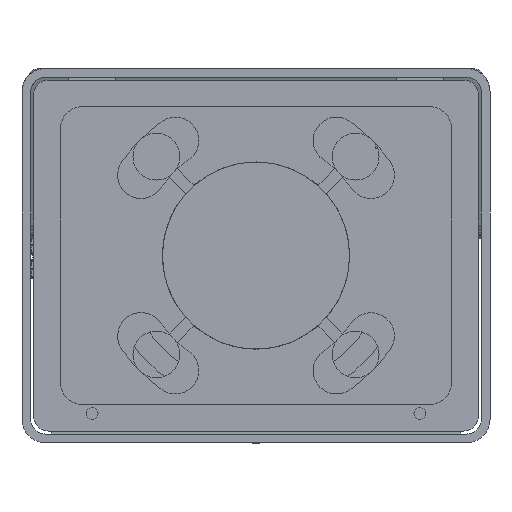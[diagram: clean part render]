
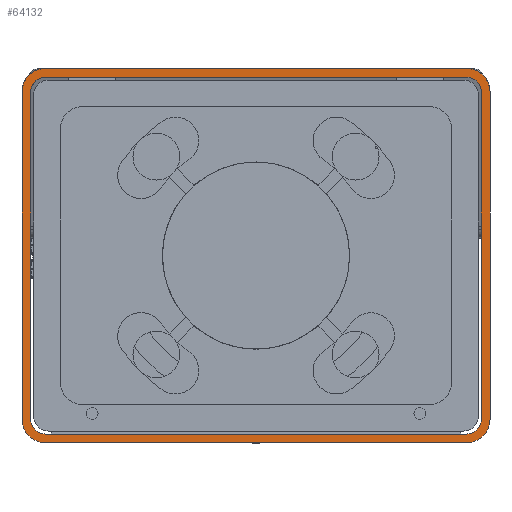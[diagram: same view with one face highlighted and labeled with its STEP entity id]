
A CAD part, front view. The second image highlights one B-rep face of the part: STEP entity #64132.
In plain terms, the highlighted planar face has unit normal (0, -1, 0).
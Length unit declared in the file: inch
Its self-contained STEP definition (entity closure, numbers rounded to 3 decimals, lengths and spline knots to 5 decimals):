
#435 = DIRECTION ( 'NONE',  ( 0., 0., -1. ) ) ;
#550 = ORIENTED_EDGE ( 'NONE', *, *, #69331, .F. ) ;
#738 = VERTEX_POINT ( 'NONE', #33235 ) ;
#1366 = LINE ( 'NONE', #42932, #30515 ) ;
#2058 = EDGE_CURVE ( 'NONE', #53831, #58784, #33843, .T. ) ;
#4867 = ORIENTED_EDGE ( 'NONE', *, *, #86694, .T. ) ;
#5449 = DIRECTION ( 'NONE',  ( 0., 0., 1. ) ) ;
#5899 = CARTESIAN_POINT ( 'NONE',  ( 4.5, 0., -4. ) ) ;
#9724 = EDGE_LOOP ( 'NONE', ( #40112, #85325, #550, #25454, #68902, #80272, #71871, #14323 ) ) ;
#10003 = VERTEX_POINT ( 'NONE', #73698 ) ;
#11094 = DIRECTION ( 'NONE',  ( 0., 1., 0. ) ) ;
#11738 = CARTESIAN_POINT ( 'NONE',  ( -4.5, 0., -3.5 ) ) ;
#13358 = CARTESIAN_POINT ( 'NONE',  ( -4.5, 0., -3.8125 ) ) ;
#13961 = VECTOR ( 'NONE', #46220, 39.37008 ) ;
#14251 = CARTESIAN_POINT ( 'NONE',  ( -4.8125, 0., -3.5 ) ) ;
#14323 = ORIENTED_EDGE ( 'NONE', *, *, #2058, .F. ) ;
#14383 = VECTOR ( 'NONE', #77125, 39.37008 ) ;
#15477 = EDGE_CURVE ( 'NONE', #50445, #72713, #1366, .T. ) ;
#15837 = EDGE_LOOP ( 'NONE', ( #71874, #27045, #80790, #60268, #45419, #4867, #21084, #25657 ) ) ;
#17320 = CARTESIAN_POINT ( 'NONE',  ( 4.5, 0., -3.5 ) ) ;
#17548 = VECTOR ( 'NONE', #435, 39.37008 ) ;
#18349 = LINE ( 'NONE', #60264, #74867 ) ;
#18612 = LINE ( 'NONE', #31031, #55470 ) ;
#18939 = CARTESIAN_POINT ( 'NONE',  ( -4.5, 0., -3.5 ) ) ;
#19386 = CARTESIAN_POINT ( 'NONE',  ( 4.8125, 0., 3.5 ) ) ;
#20137 = AXIS2_PLACEMENT_3D ( 'NONE', #18939, #65754, #38869 ) ;
#21084 = ORIENTED_EDGE ( 'NONE', *, *, #70592, .T. ) ;
#22316 = DIRECTION ( 'NONE',  ( 0., 1., 0. ) ) ;
#22623 = VERTEX_POINT ( 'NONE', #14251 ) ;
#23452 = DIRECTION ( 'NONE',  ( 0., 0., 1. ) ) ;
#24877 = VERTEX_POINT ( 'NONE', #19386 ) ;
#25408 = DIRECTION ( 'NONE',  ( 0., 1., 0. ) ) ;
#25449 = EDGE_CURVE ( 'NONE', #72713, #60300, #34736, .T. ) ;
#25454 = ORIENTED_EDGE ( 'NONE', *, *, #31243, .F. ) ;
#25657 = ORIENTED_EDGE ( 'NONE', *, *, #53379, .T. ) ;
#26457 = EDGE_CURVE ( 'NONE', #80991, #24877, #67081, .T. ) ;
#27045 = ORIENTED_EDGE ( 'NONE', *, *, #45178, .T. ) ;
#27836 = CARTESIAN_POINT ( 'NONE',  ( 5., 0., -3.5 ) ) ;
#28538 = CARTESIAN_POINT ( 'NONE',  ( 4.5, 0., 4. ) ) ;
#28587 = LINE ( 'NONE', #83749, #14383 ) ;
#29824 = CARTESIAN_POINT ( 'NONE',  ( 4.8125, 0., -3.5 ) ) ;
#29892 = CARTESIAN_POINT ( 'NONE',  ( -4.5, 0., -4. ) ) ;
#30244 = VECTOR ( 'NONE', #45897, 39.37008 ) ;
#30515 = VECTOR ( 'NONE', #23452, 39.37008 ) ;
#31031 = CARTESIAN_POINT ( 'NONE',  ( 4.5, 0., -3.8125 ) ) ;
#31243 = EDGE_CURVE ( 'NONE', #60300, #59469, #85927, .T. ) ;
#32095 = DIRECTION ( 'NONE',  ( 0., 1., 0. ) ) ;
#33235 = CARTESIAN_POINT ( 'NONE',  ( -4.5, 0., 3.8125 ) ) ;
#33843 = LINE ( 'NONE', #34720, #13961 ) ;
#34720 = CARTESIAN_POINT ( 'NONE',  ( 4.5, 0., -4. ) ) ;
#34736 = CIRCLE ( 'NONE', #84073, 0.5 ) ;
#34939 = CARTESIAN_POINT ( 'NONE',  ( 5., 0., -3.5 ) ) ;
#35102 = CARTESIAN_POINT ( 'NONE',  ( -5., 0., 3.5 ) ) ;
#35572 = AXIS2_PLACEMENT_3D ( 'NONE', #17320, #11094, #50472 ) ;
#35612 = FACE_BOUND ( 'NONE', #15837, .T. ) ;
#35689 = CARTESIAN_POINT ( 'NONE',  ( 4.5, 0., 3.5 ) ) ;
#36751 = DIRECTION ( 'NONE',  ( 0., 1., 0. ) ) ;
#38527 = AXIS2_PLACEMENT_3D ( 'NONE', #45386, #72316, #65644 ) ;
#38869 = DIRECTION ( 'NONE',  ( 0., 0., 1. ) ) ;
#40112 = ORIENTED_EDGE ( 'NONE', *, *, #75217, .F. ) ;
#41784 = CARTESIAN_POINT ( 'NONE',  ( -5., 0., -3.5 ) ) ;
#41891 = VERTEX_POINT ( 'NONE', #64604 ) ;
#41994 = LINE ( 'NONE', #34939, #17548 ) ;
#42932 = CARTESIAN_POINT ( 'NONE',  ( -5., 0., 3.5 ) ) ;
#42942 = DIRECTION ( 'NONE',  ( 0., 0., 1. ) ) ;
#43989 = CIRCLE ( 'NONE', #35572, 0.5 ) ;
#45014 = CARTESIAN_POINT ( 'NONE',  ( -4.5, 0., 3.8125 ) ) ;
#45178 = EDGE_CURVE ( 'NONE', #22623, #65755, #18349, .T. ) ;
#45386 = CARTESIAN_POINT ( 'NONE',  ( 4.5, 0., -3.5 ) ) ;
#45419 = ORIENTED_EDGE ( 'NONE', *, *, #26457, .T. ) ;
#45457 = LINE ( 'NONE', #45014, #30244 ) ;
#45766 = DIRECTION ( 'NONE',  ( 0., 0., 1. ) ) ;
#45897 = DIRECTION ( 'NONE',  ( 1., 0., 0. ) ) ;
#46220 = DIRECTION ( 'NONE',  ( -1., 0., 0. ) ) ;
#47987 = CARTESIAN_POINT ( 'NONE',  ( 4.5, 0., -3.5 ) ) ;
#48336 = CARTESIAN_POINT ( 'NONE',  ( 4.5, 0., 3.5 ) ) ;
#48415 = CIRCLE ( 'NONE', #38527, 0.3125 ) ;
#49593 = EDGE_CURVE ( 'NONE', #41891, #64064, #41994, .T. ) ;
#50445 = VERTEX_POINT ( 'NONE', #41784 ) ;
#50472 = DIRECTION ( 'NONE',  ( 0., 0., 1. ) ) ;
#50652 = DIRECTION ( 'NONE',  ( 0., 1., 0. ) ) ;
#51115 = CIRCLE ( 'NONE', #86377, 0.5 ) ;
#51194 = CIRCLE ( 'NONE', #20137, 0.5 ) ;
#52277 = CIRCLE ( 'NONE', #80448, 0.3125 ) ;
#52370 = VERTEX_POINT ( 'NONE', #13358 ) ;
#52827 = EDGE_CURVE ( 'NONE', #52370, #22623, #65253, .T. ) ;
#53379 = EDGE_CURVE ( 'NONE', #10003, #52370, #18612, .T. ) ;
#53831 = VERTEX_POINT ( 'NONE', #5899 ) ;
#54847 = CARTESIAN_POINT ( 'NONE',  ( -4.5, 0., 3.5 ) ) ;
#55347 = EDGE_CURVE ( 'NONE', #738, #80991, #45457, .T. ) ;
#55470 = VECTOR ( 'NONE', #78715, 39.37008 ) ;
#55503 = VERTEX_POINT ( 'NONE', #29824 ) ;
#56317 = CARTESIAN_POINT ( 'NONE',  ( -4.5, 0., 4. ) ) ;
#58621 = AXIS2_PLACEMENT_3D ( 'NONE', #48336, #73532, #67302 ) ;
#58784 = VERTEX_POINT ( 'NONE', #29892 ) ;
#59002 = DIRECTION ( 'NONE',  ( 0., 0., 1. ) ) ;
#59469 = VERTEX_POINT ( 'NONE', #28538 ) ;
#60264 = CARTESIAN_POINT ( 'NONE',  ( -4.8125, 0., 3.5 ) ) ;
#60268 = ORIENTED_EDGE ( 'NONE', *, *, #55347, .T. ) ;
#60300 = VERTEX_POINT ( 'NONE', #56317 ) ;
#63363 = CARTESIAN_POINT ( 'NONE',  ( -4.5, 0., 3.5 ) ) ;
#64064 = VERTEX_POINT ( 'NONE', #27836 ) ;
#64132 = ADVANCED_FACE ( 'NONE', ( #82828, #35612 ), #75361, .F. ) ;
#64604 = CARTESIAN_POINT ( 'NONE',  ( 5., 0., 3.5 ) ) ;
#65083 = VECTOR ( 'NONE', #66456, 39.37008 ) ;
#65253 = CIRCLE ( 'NONE', #79413, 0.3125 ) ;
#65644 = DIRECTION ( 'NONE',  ( 0., 0., 1. ) ) ;
#65754 = DIRECTION ( 'NONE',  ( 0., 1., 0. ) ) ;
#65755 = VERTEX_POINT ( 'NONE', #74053 ) ;
#66456 = DIRECTION ( 'NONE',  ( 1., 0., 0. ) ) ;
#67081 = CIRCLE ( 'NONE', #58621, 0.3125 ) ;
#67302 = DIRECTION ( 'NONE',  ( 0., 0., 1. ) ) ;
#67707 = CARTESIAN_POINT ( 'NONE',  ( 4.5, 0., 3.8125 ) ) ;
#67963 = EDGE_CURVE ( 'NONE', #65755, #738, #52277, .T. ) ;
#68683 = DIRECTION ( 'NONE',  ( 0., 0., 1. ) ) ;
#68902 = ORIENTED_EDGE ( 'NONE', *, *, #25449, .F. ) ;
#69331 = EDGE_CURVE ( 'NONE', #59469, #41891, #51115, .T. ) ;
#70166 = EDGE_CURVE ( 'NONE', #58784, #50445, #51194, .T. ) ;
#70592 = EDGE_CURVE ( 'NONE', #55503, #10003, #48415, .T. ) ;
#71871 = ORIENTED_EDGE ( 'NONE', *, *, #70166, .F. ) ;
#71874 = ORIENTED_EDGE ( 'NONE', *, *, #52827, .T. ) ;
#72316 = DIRECTION ( 'NONE',  ( 0., 1., 0. ) ) ;
#72713 = VERTEX_POINT ( 'NONE', #35102 ) ;
#73532 = DIRECTION ( 'NONE',  ( 0., 1., 0. ) ) ;
#73698 = CARTESIAN_POINT ( 'NONE',  ( 4.5, 0., -3.8125 ) ) ;
#74053 = CARTESIAN_POINT ( 'NONE',  ( -4.8125, 0., 3.5 ) ) ;
#74552 = AXIS2_PLACEMENT_3D ( 'NONE', #47987, #22316, #68683 ) ;
#74867 = VECTOR ( 'NONE', #45766, 39.37008 ) ;
#75217 = EDGE_CURVE ( 'NONE', #64064, #53831, #43989, .T. ) ;
#75361 = PLANE ( 'NONE',  #74552 ) ;
#77125 = DIRECTION ( 'NONE',  ( 0., 0., -1. ) ) ;
#78715 = DIRECTION ( 'NONE',  ( -1., 0., 0. ) ) ;
#79413 = AXIS2_PLACEMENT_3D ( 'NONE', #11738, #32095, #59002 ) ;
#80159 = CARTESIAN_POINT ( 'NONE',  ( -4.5, 0., 4. ) ) ;
#80272 = ORIENTED_EDGE ( 'NONE', *, *, #15477, .F. ) ;
#80448 = AXIS2_PLACEMENT_3D ( 'NONE', #54847, #36751, #42942 ) ;
#80790 = ORIENTED_EDGE ( 'NONE', *, *, #67963, .T. ) ;
#80991 = VERTEX_POINT ( 'NONE', #67707 ) ;
#82493 = DIRECTION ( 'NONE',  ( 0., 0., 1. ) ) ;
#82828 = FACE_OUTER_BOUND ( 'NONE', #9724, .T. ) ;
#83749 = CARTESIAN_POINT ( 'NONE',  ( 4.8125, 0., -3.5 ) ) ;
#84073 = AXIS2_PLACEMENT_3D ( 'NONE', #63363, #25408, #5449 ) ;
#85325 = ORIENTED_EDGE ( 'NONE', *, *, #49593, .F. ) ;
#85927 = LINE ( 'NONE', #80159, #65083 ) ;
#86377 = AXIS2_PLACEMENT_3D ( 'NONE', #35689, #50652, #82493 ) ;
#86694 = EDGE_CURVE ( 'NONE', #24877, #55503, #28587, .T. ) ;
